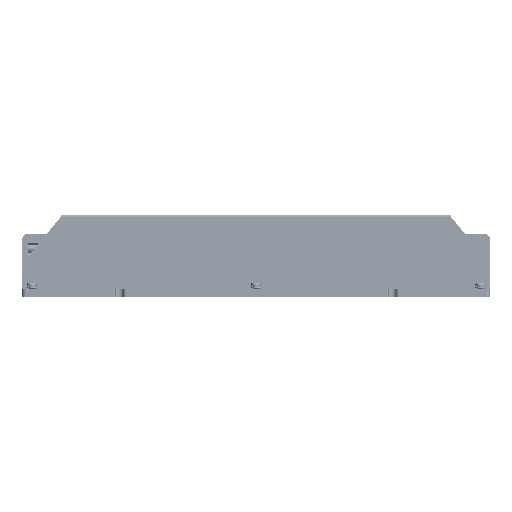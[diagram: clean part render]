
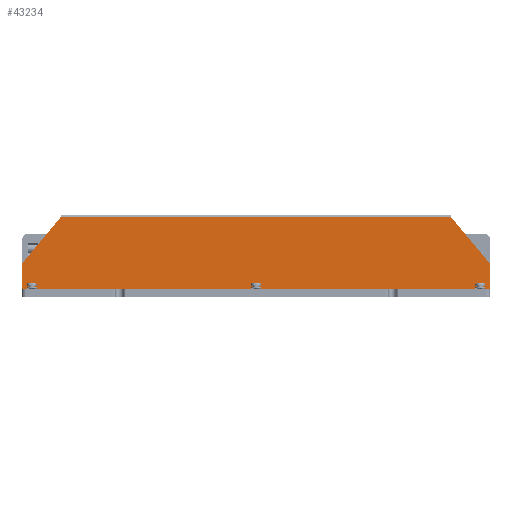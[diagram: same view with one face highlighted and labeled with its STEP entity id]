
A CAD part, top view. The second image highlights one B-rep face of the part: STEP entity #43234.
In plain terms, the highlighted planar face has unit normal (0, 0, 1).
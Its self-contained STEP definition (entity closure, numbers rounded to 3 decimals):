
#19964 = CARTESIAN_POINT ( 'NONE',  ( 79.054, 169.618, 86.283 ) ) ;
#21278 = CARTESIAN_POINT ( 'NONE',  ( 77.054, 194.332, 86.283 ) ) ;
#22817 = LINE ( 'NONE', #164773, #134773 ) ;
#26527 = ORIENTED_EDGE ( 'NONE', *, *, #51291, .F. ) ;
#32397 = ORIENTED_EDGE ( 'NONE', *, *, #136401, .T. ) ;
#43234 = ADVANCED_FACE ( 'NONE', ( #188528 ), #302473, .F. ) ;
#51291 = EDGE_CURVE ( 'NONE', #250319, #354429, #175688, .T. ) ;
#51599 = DIRECTION ( 'NONE',  ( 0., 0., 1. ) ) ;
#52907 = LINE ( 'NONE', #21278, #334456 ) ;
#55731 = DIRECTION ( 'NONE',  ( 0., 1., 0. ) ) ;
#66915 = EDGE_CURVE ( 'NONE', #250319, #258238, #350898, .T. ) ;
#71726 = ORIENTED_EDGE ( 'NONE', *, *, #308453, .T. ) ;
#79088 = DIRECTION ( 'NONE',  ( 0., -1., 0. ) ) ;
#83185 = CARTESIAN_POINT ( 'NONE',  ( 77.517, 170.898, 86.283 ) ) ;
#101073 = CARTESIAN_POINT ( 'NONE',  ( 297.054, 157.352, 86.283 ) ) ;
#104821 = CARTESIAN_POINT ( 'NONE',  ( 77.054, 169.618, 86.283 ) ) ;
#111556 = EDGE_CURVE ( 'NONE', #354429, #228842, #157156, .T. ) ;
#118767 = AXIS2_PLACEMENT_3D ( 'NONE', #19964, #51599, #221466 ) ;
#123275 = CARTESIAN_POINT ( 'NONE',  ( 315.054, 169.618, 86.283 ) ) ;
#134773 = VECTOR ( 'NONE', #220669, 1000. ) ;
#136401 = EDGE_CURVE ( 'NONE', #214164, #228842, #52907, .T. ) ;
#146101 = VERTEX_POINT ( 'NONE', #83185 ) ;
#156837 = EDGE_CURVE ( 'NONE', #284240, #286470, #336480, .T. ) ;
#157156 = LINE ( 'NONE', #101073, #241136 ) ;
#158998 = DIRECTION ( 'NONE',  ( -1., 0., 0. ) ) ;
#161829 = ORIENTED_EDGE ( 'NONE', *, *, #111556, .F. ) ;
#164773 = CARTESIAN_POINT ( 'NONE',  ( 297.054, 194.332, 86.283 ) ) ;
#169097 = EDGE_CURVE ( 'NONE', #146101, #214164, #261067, .T. ) ;
#175688 = LINE ( 'NONE', #203650, #279778 ) ;
#188528 = FACE_OUTER_BOUND ( 'NONE', #307818, .T. ) ;
#191463 = CARTESIAN_POINT ( 'NONE',  ( 77.054, 157.352, 86.283 ) ) ;
#192269 = LINE ( 'NONE', #227532, #249581 ) ;
#203650 = CARTESIAN_POINT ( 'NONE',  ( 317.054, 194.332, 86.283 ) ) ;
#205415 = DIRECTION ( 'NONE',  ( 0., 0., 1. ) ) ;
#214164 = VERTEX_POINT ( 'NONE', #104821 ) ;
#220669 = DIRECTION ( 'NONE',  ( 0.64, -0.768, 0. ) ) ;
#221466 = DIRECTION ( 'NONE',  ( 0., 1., 0. ) ) ;
#221559 = CARTESIAN_POINT ( 'NONE',  ( 317.054, 157.352, 86.283 ) ) ;
#221711 = CARTESIAN_POINT ( 'NONE',  ( 97.054, 194.332, 86.283 ) ) ;
#222590 = AXIS2_PLACEMENT_3D ( 'NONE', #334226, #223815, #55731 ) ;
#223815 = DIRECTION ( 'NONE',  ( 0., 0., -1. ) ) ;
#227532 = CARTESIAN_POINT ( 'NONE',  ( 97.054, 194.332, 86.283 ) ) ;
#228842 = VERTEX_POINT ( 'NONE', #191463 ) ;
#241136 = VECTOR ( 'NONE', #158998, 1000. ) ;
#246086 = ORIENTED_EDGE ( 'NONE', *, *, #169097, .T. ) ;
#248284 = CARTESIAN_POINT ( 'NONE',  ( 316.59, 170.898, 86.283 ) ) ;
#249581 = VECTOR ( 'NONE', #278133, 1000. ) ;
#250319 = VERTEX_POINT ( 'NONE', #278336 ) ;
#253928 = ORIENTED_EDGE ( 'NONE', *, *, #156837, .T. ) ;
#258238 = VERTEX_POINT ( 'NONE', #248284 ) ;
#261067 = CIRCLE ( 'NONE', #118767, 2. ) ;
#274744 = EDGE_CURVE ( 'NONE', #284240, #258238, #22817, .T. ) ;
#278133 = DIRECTION ( 'NONE',  ( -0.64, -0.768, 0. ) ) ;
#278336 = CARTESIAN_POINT ( 'NONE',  ( 317.054, 169.618, 86.283 ) ) ;
#279778 = VECTOR ( 'NONE', #343838, 1000. ) ;
#284240 = VERTEX_POINT ( 'NONE', #311314 ) ;
#284834 = VECTOR ( 'NONE', #330940, 1000. ) ;
#286470 = VERTEX_POINT ( 'NONE', #221711 ) ;
#301036 = CARTESIAN_POINT ( 'NONE',  ( 297.054, 194.332, 86.283 ) ) ;
#302473 = PLANE ( 'NONE',  #222590 ) ;
#307818 = EDGE_LOOP ( 'NONE', ( #71726, #246086, #32397, #161829, #26527, #333879, #330648, #253928 ) ) ;
#308453 = EDGE_CURVE ( 'NONE', #286470, #146101, #192269, .T. ) ;
#311314 = CARTESIAN_POINT ( 'NONE',  ( 297.054, 194.332, 86.283 ) ) ;
#315164 = AXIS2_PLACEMENT_3D ( 'NONE', #123275, #205415, #319387 ) ;
#319387 = DIRECTION ( 'NONE',  ( 0., 1., 0. ) ) ;
#330648 = ORIENTED_EDGE ( 'NONE', *, *, #274744, .F. ) ;
#330940 = DIRECTION ( 'NONE',  ( -1., 0., 0. ) ) ;
#333879 = ORIENTED_EDGE ( 'NONE', *, *, #66915, .T. ) ;
#334226 = CARTESIAN_POINT ( 'NONE',  ( 297.054, 194.332, 86.283 ) ) ;
#334456 = VECTOR ( 'NONE', #79088, 1000. ) ;
#336480 = LINE ( 'NONE', #301036, #284834 ) ;
#343838 = DIRECTION ( 'NONE',  ( 0., -1., 0. ) ) ;
#350898 = CIRCLE ( 'NONE', #315164, 2. ) ;
#354429 = VERTEX_POINT ( 'NONE', #221559 ) ;
